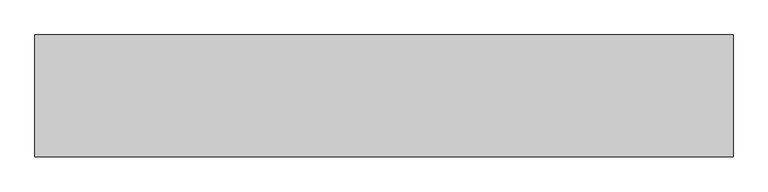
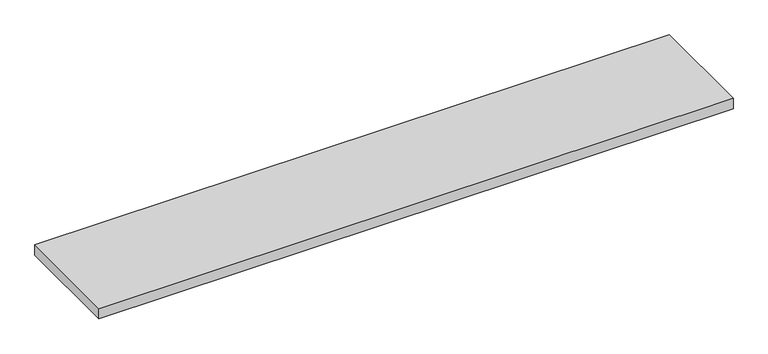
"""IFC4 building model written with IfcOpenShell, lengths in millimetres: proxy geometry, Vita_Решетка : РАП_Алюминиевая продольная."""

from ifc_helpers import new_model, si_unit, frame, origin, place, context, project, spatial, polyline, outline, extrude, source, transform, mapped, element, save


def mechanical_equipment_16d1fad6(model_context):
    return source(origin(), model_context, "Body", "SweptSolid", [
        extrude(outline(polyline([(-599.0, -112.8), (599.0, -112.8), (599.0, -322.2), (-599.0, -322.2), (-599.0, -112.8)])), frame((0.0, 0.0, 259.83), z_axis=(0.0, 0.0, 1.0), x_axis=(1.0, 0.0, 0.0)), (0.0, 0.0, 1.0), 20.17),
    ])


if __name__ == "__main__":
    model = new_model("IFC4")
    model_context = context("Model", 3, world=origin())
    ifc_project = project(units=[si_unit("LENGTHUNIT", "METRE", prefix="MILLI")], contexts=[model_context])
    site = spatial("IfcSite", under=ifc_project)
    building = spatial("IfcBuilding", under=site)
    placement = place(None, origin())
    mechanical_equipment_shape = mechanical_equipment_16d1fad6(model_context)
    element("IfcBuildingElementProxy", 1, Name="Vita_Решетка : РАП_Алюминиевая продольная", ObjectType="Vita_Решетка : РАП_Алюминиевая продольная", at=placement, inside=building, context=model_context, shape_type="MappedRepresentation", body=[
        mapped(mechanical_equipment_shape, transform((0.0, 0.0, 0.0), x_axis=(1.0, 0.0, 0.0), y_axis=(0.0, 1.0, 0.0), z_axis=(0.0, 0.0, 1.0))),
    ])
    save(model, "model.ifc")
